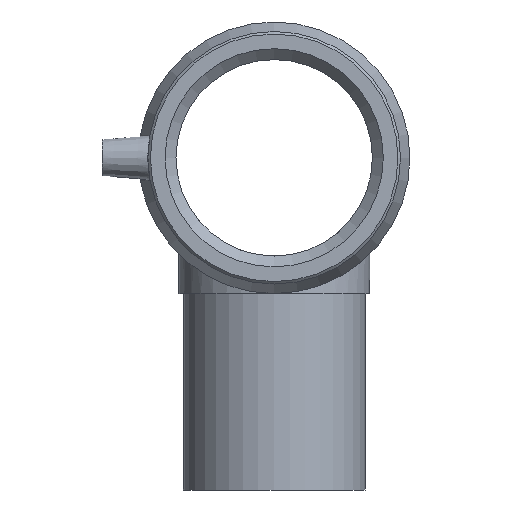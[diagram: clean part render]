
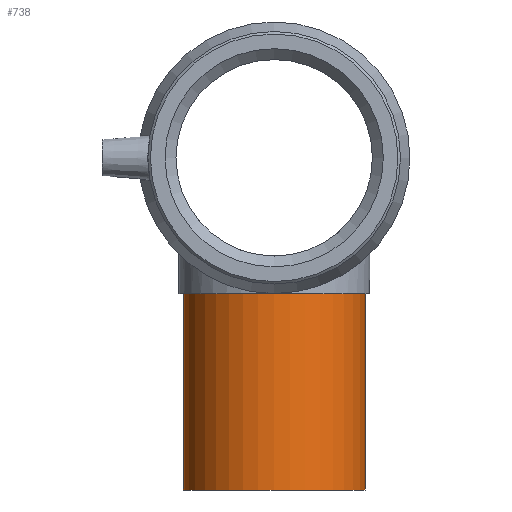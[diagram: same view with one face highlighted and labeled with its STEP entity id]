
A CAD part, left-side view. The second image highlights one B-rep face of the part: STEP entity #738.
In plain terms, the highlighted cylindrical face has radius 37.5 mm (diameter 75 mm), a full revolution.
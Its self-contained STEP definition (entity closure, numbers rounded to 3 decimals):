
#63=FACE_OUTER_BOUND('',#108,.T.);
#108=EDGE_LOOP('',(#495,#496,#497,#498));
#167=LINE('',#1191,#200);
#200=VECTOR('',#925,37.5);
#233=CIRCLE('',#804,37.5);
#234=CIRCLE('',#805,37.5);
#304=VERTEX_POINT('',#1188);
#305=VERTEX_POINT('',#1190);
#383=EDGE_CURVE('',#304,#304,#233,.T.);
#384=EDGE_CURVE('',#304,#305,#167,.T.);
#385=EDGE_CURVE('',#305,#305,#234,.T.);
#495=ORIENTED_EDGE('',*,*,#383,.T.);
#496=ORIENTED_EDGE('',*,*,#384,.T.);
#497=ORIENTED_EDGE('',*,*,#385,.F.);
#498=ORIENTED_EDGE('',*,*,#384,.F.);
#719=CYLINDRICAL_SURFACE('',#803,37.5);
#738=ADVANCED_FACE('',(#63),#719,.T.);
#803=AXIS2_PLACEMENT_3D('',#1187,#921,#922);
#804=AXIS2_PLACEMENT_3D('',#1189,#923,#924);
#805=AXIS2_PLACEMENT_3D('',#1192,#926,#927);
#921=DIRECTION('center_axis',(0.,0.,1.));
#922=DIRECTION('ref_axis',(1.,0.,0.));
#923=DIRECTION('center_axis',(0.,0.,-1.));
#924=DIRECTION('ref_axis',(1.,0.,0.));
#925=DIRECTION('',(0.,0.,-1.));
#926=DIRECTION('center_axis',(0.,0.,-1.));
#927=DIRECTION('ref_axis',(1.,0.,0.));
#1187=CARTESIAN_POINT('Origin',(0.,0.,-137.));
#1188=CARTESIAN_POINT('',(-37.5,0.,-56.));
#1189=CARTESIAN_POINT('Origin',(0.,0.,-56.));
#1190=CARTESIAN_POINT('',(-37.5,0.,-137.));
#1191=CARTESIAN_POINT('',(-37.5,0.,-137.));
#1192=CARTESIAN_POINT('Origin',(0.,0.,-137.));
